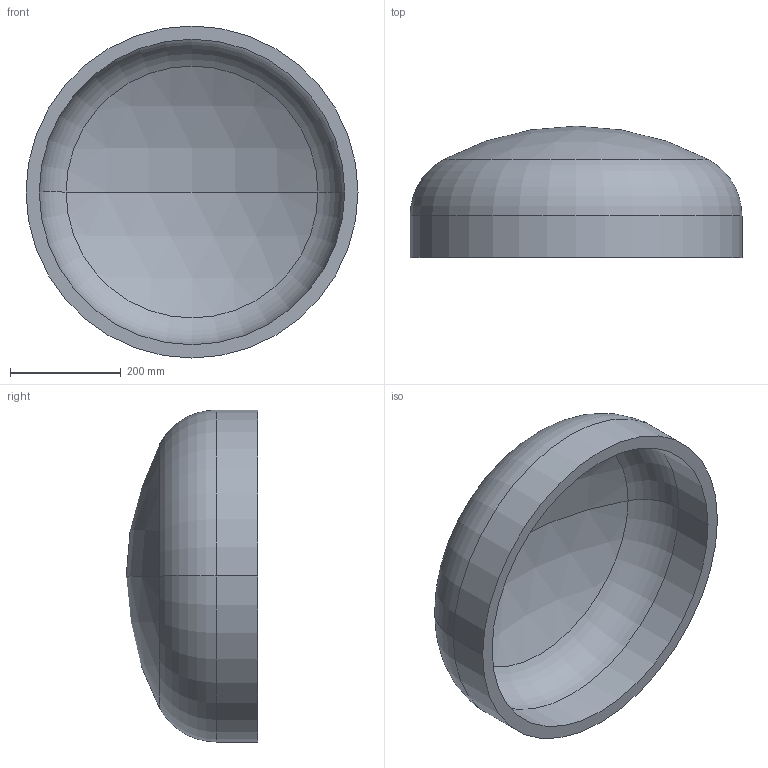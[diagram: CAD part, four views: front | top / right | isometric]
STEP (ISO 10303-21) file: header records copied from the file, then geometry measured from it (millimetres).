
FILE_DESCRIPTION (( 'STEP AP203' ), '1' );
FILE_NAME ('DIN 28013 Korbbogenform_-_Boden DIN 28013 - 600 x 75 - I - s=24.step', '2016-07-01T07:58:42', ( '' ), ( '' ), 'SwSTEP 2.0', 'SolidWorks 2013', '' );
FILE_SCHEMA (( 'CONFIG_CONTROL_DESIGN' ));
Length unit declared in the file: millimetre
Products named in the file (1): DIN 28013 Korbbogenform_-_Boden DIN 28013 - 600 x 75 - I - s=24
Bounding box: 600 x 237.4 x 600 mm (x, y, z)
Volume: 12172974.7 mm3; surface area: 1059050.1 mm2
Topology: 1 solids, 1 shells, 13 faces, 24 edges, 14 vertices
Faces by surface type: torus 4, cylinder 4, sphere 4, plane 1
Entity records: 407 total; most frequent: DIRECTION 72, CARTESIAN_POINT 52, ORIENTED_EDGE 48, AXIS2_PLACEMENT_3D 34, EDGE_CURVE 24, CIRCLE 20, VERTEX_POINT 14, EDGE_LOOP 14
